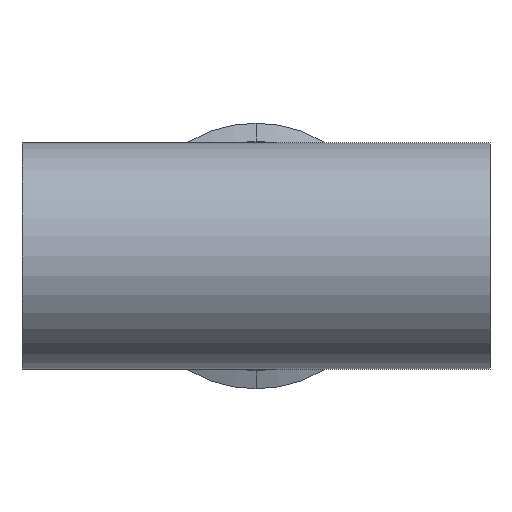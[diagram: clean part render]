
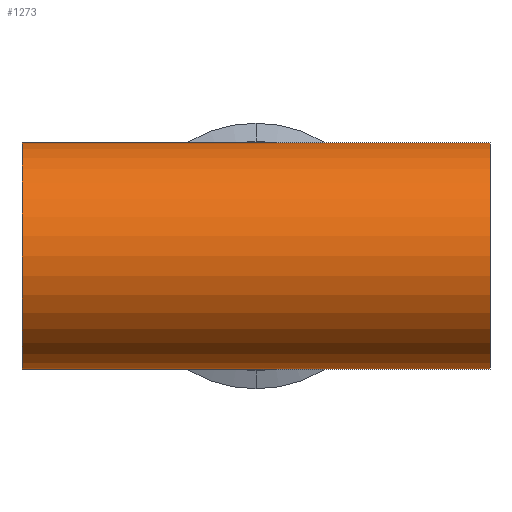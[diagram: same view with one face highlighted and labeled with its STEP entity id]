
A CAD part, front view. The second image highlights one B-rep face of the part: STEP entity #1273.
In plain terms, the highlighted cylindrical face has radius 50.8 mm (diameter 101.6 mm), a partial arc.
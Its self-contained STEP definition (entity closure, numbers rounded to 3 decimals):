
#5 = DIRECTION ( 'NONE',  ( 1., 0., 0. ) ) ;
#14 = EDGE_CURVE ( 'NONE', #1206, #1264, #1134, .T. ) ;
#73 = CARTESIAN_POINT ( 'NONE',  ( 0., 0., 50.8 ) ) ;
#97 = DIRECTION ( 'NONE',  ( 1., 0., 0. ) ) ;
#114 = CARTESIAN_POINT ( 'NONE',  ( -104.8, 0., 50.8 ) ) ;
#161 = CARTESIAN_POINT ( 'NONE',  ( 104.8, 0., 0. ) ) ;
#171 = VECTOR ( 'NONE', #1053, 1000. ) ;
#179 = DIRECTION ( 'NONE',  ( 0., 0., -1. ) ) ;
#189 = DIRECTION ( 'NONE',  ( 0., 0., -1. ) ) ;
#208 = LINE ( 'NONE', #1485, #670 ) ;
#289 = CARTESIAN_POINT ( 'NONE',  ( 0., 0., -50.8 ) ) ;
#299 = CYLINDRICAL_SURFACE ( 'NONE', #517, 50.8 ) ;
#321 = DIRECTION ( 'NONE',  ( -1., 0., 0. ) ) ;
#322 = DIRECTION ( 'NONE',  ( 1., 0., 0. ) ) ;
#361 = CARTESIAN_POINT ( 'NONE',  ( -104.8, 0., 50.8 ) ) ;
#367 = FACE_OUTER_BOUND ( 'NONE', #467, .T. ) ;
#458 = DIRECTION ( 'NONE',  ( 0., 0., -1. ) ) ;
#467 = EDGE_LOOP ( 'NONE', ( #921, #1214, #879, #1441, #1111, #845 ) ) ;
#469 = EDGE_CURVE ( 'NONE', #801, #709, #1191, .T. ) ;
#482 = CARTESIAN_POINT ( 'NONE',  ( -104.8, 0., -50.8 ) ) ;
#516 = DIRECTION ( 'NONE',  ( 1., 0., 0. ) ) ;
#517 = AXIS2_PLACEMENT_3D ( 'NONE', #795, #5, #189 ) ;
#529 = CARTESIAN_POINT ( 'NONE',  ( -104.8, 0., 0. ) ) ;
#541 = AXIS2_PLACEMENT_3D ( 'NONE', #161, #321, #179 ) ;
#659 = VERTEX_POINT ( 'NONE', #859 ) ;
#664 = EDGE_CURVE ( 'NONE', #801, #1206, #1230, .T. ) ;
#670 = VECTOR ( 'NONE', #1466, 1000. ) ;
#709 = VERTEX_POINT ( 'NONE', #73 ) ;
#795 = CARTESIAN_POINT ( 'NONE',  ( -104.8, 0., 0. ) ) ;
#801 = VERTEX_POINT ( 'NONE', #361 ) ;
#845 = ORIENTED_EDGE ( 'NONE', *, *, #957, .F. ) ;
#859 = CARTESIAN_POINT ( 'NONE',  ( 104.8, 0., 50.8 ) ) ;
#871 = LINE ( 'NONE', #1612, #171 ) ;
#879 = ORIENTED_EDGE ( 'NONE', *, *, #14, .T. ) ;
#921 = ORIENTED_EDGE ( 'NONE', *, *, #469, .F. ) ;
#957 = EDGE_CURVE ( 'NONE', #709, #659, #871, .T. ) ;
#1027 = CARTESIAN_POINT ( 'NONE',  ( 104.8, 0., -50.8 ) ) ;
#1053 = DIRECTION ( 'NONE',  ( 1., 0., 0. ) ) ;
#1079 = CARTESIAN_POINT ( 'NONE',  ( -104.8, 0., -50.8 ) ) ;
#1084 = VECTOR ( 'NONE', #97, 1000. ) ;
#1111 = ORIENTED_EDGE ( 'NONE', *, *, #1562, .T. ) ;
#1134 = LINE ( 'NONE', #482, #1778 ) ;
#1191 = LINE ( 'NONE', #114, #1084 ) ;
#1206 = VERTEX_POINT ( 'NONE', #1079 ) ;
#1208 = VERTEX_POINT ( 'NONE', #1027 ) ;
#1214 = ORIENTED_EDGE ( 'NONE', *, *, #664, .T. ) ;
#1230 = CIRCLE ( 'NONE', #1400, 50.8 ) ;
#1264 = VERTEX_POINT ( 'NONE', #289 ) ;
#1273 = ADVANCED_FACE ( 'NONE', ( #367 ), #299, .T. ) ;
#1400 = AXIS2_PLACEMENT_3D ( 'NONE', #529, #516, #458 ) ;
#1441 = ORIENTED_EDGE ( 'NONE', *, *, #1746, .T. ) ;
#1466 = DIRECTION ( 'NONE',  ( 1., 0., 0. ) ) ;
#1485 = CARTESIAN_POINT ( 'NONE',  ( -104.8, 0., -50.8 ) ) ;
#1562 = EDGE_CURVE ( 'NONE', #1208, #659, #1810, .T. ) ;
#1612 = CARTESIAN_POINT ( 'NONE',  ( -104.8, 0., 50.8 ) ) ;
#1746 = EDGE_CURVE ( 'NONE', #1264, #1208, #208, .T. ) ;
#1778 = VECTOR ( 'NONE', #322, 1000. ) ;
#1810 = CIRCLE ( 'NONE', #541, 50.8 ) ;
